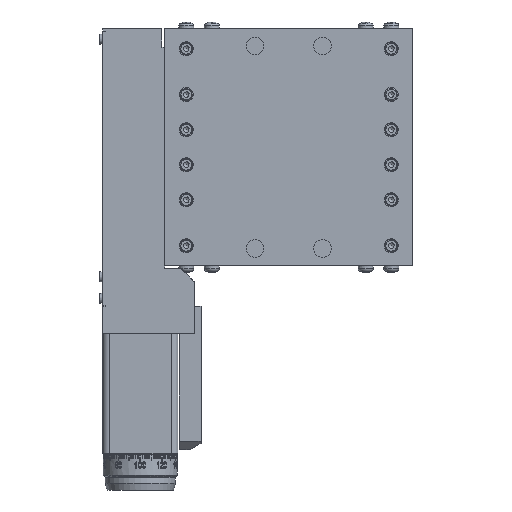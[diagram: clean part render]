
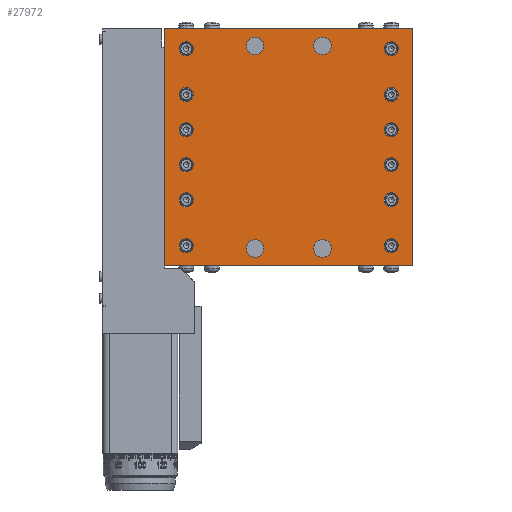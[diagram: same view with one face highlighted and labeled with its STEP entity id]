
A CAD part, front view. The second image highlights one B-rep face of the part: STEP entity #27972.
In plain terms, the highlighted planar face has unit normal (0, -1, 0).
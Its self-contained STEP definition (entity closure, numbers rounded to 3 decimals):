
#1511=LINE($,#40879,#3525);
#1557=LINE($,#40972,#3571);
#1559=LINE($,#40975,#3573);
#1560=LINE($,#40976,#3574);
#3525=VECTOR($,#33410,88.);
#3571=VECTOR($,#33482,88.);
#3573=VECTOR($,#33486,92.);
#3574=VECTOR($,#33487,92.);
#5642=PLANE($,#29923);
#6733=FACE_BOUND($,#9178,.T.);
#6734=FACE_BOUND($,#9179,.T.);
#6735=FACE_BOUND($,#9180,.T.);
#6736=FACE_BOUND($,#9181,.T.);
#6737=FACE_BOUND($,#9182,.T.);
#6738=FACE_BOUND($,#9183,.T.);
#6739=FACE_BOUND($,#9184,.T.);
#6740=FACE_BOUND($,#9185,.T.);
#6741=FACE_BOUND($,#9186,.T.);
#6742=FACE_BOUND($,#9187,.T.);
#6743=FACE_BOUND($,#9188,.T.);
#6744=FACE_BOUND($,#9189,.T.);
#6745=FACE_BOUND($,#9190,.T.);
#6746=FACE_BOUND($,#9191,.T.);
#6747=FACE_BOUND($,#9192,.T.);
#6748=FACE_BOUND($,#9193,.T.);
#7338=FACE_OUTER_BOUND($,#9177,.T.);
#9177=EDGE_LOOP($,(#19908,#19909,#19910,#19911));
#9178=EDGE_LOOP($,(#19912));
#9179=EDGE_LOOP($,(#19913));
#9180=EDGE_LOOP($,(#19914));
#9181=EDGE_LOOP($,(#19915));
#9182=EDGE_LOOP($,(#19916));
#9183=EDGE_LOOP($,(#19917));
#9184=EDGE_LOOP($,(#19918));
#9185=EDGE_LOOP($,(#19919));
#9186=EDGE_LOOP($,(#19920));
#9187=EDGE_LOOP($,(#19921));
#9188=EDGE_LOOP($,(#19922));
#9189=EDGE_LOOP($,(#19923));
#9190=EDGE_LOOP($,(#19924));
#9191=EDGE_LOOP($,(#19925));
#9192=EDGE_LOOP($,(#19926));
#9193=EDGE_LOOP($,(#19927));
#11047=CIRCLE($,#29858,2.6);
#11048=CIRCLE($,#29860,2.6);
#11049=CIRCLE($,#29862,2.6);
#11050=CIRCLE($,#29864,2.6);
#11051=CIRCLE($,#29866,2.6);
#11052=CIRCLE($,#29868,2.6);
#11053=CIRCLE($,#29870,2.6);
#11054=CIRCLE($,#29872,2.6);
#11055=CIRCLE($,#29874,2.6);
#11056=CIRCLE($,#29876,2.6);
#11057=CIRCLE($,#29878,2.6);
#11058=CIRCLE($,#29880,2.6);
#11062=CIRCLE($,#29887,3.25);
#11066=CIRCLE($,#29894,3.25);
#11070=CIRCLE($,#29901,3.25);
#11074=CIRCLE($,#29908,3.25);
#12207=VERTEX_POINT($,#40793);
#12208=VERTEX_POINT($,#40796);
#12209=VERTEX_POINT($,#40799);
#12210=VERTEX_POINT($,#40802);
#12211=VERTEX_POINT($,#40805);
#12212=VERTEX_POINT($,#40808);
#12213=VERTEX_POINT($,#40811);
#12214=VERTEX_POINT($,#40814);
#12215=VERTEX_POINT($,#40817);
#12216=VERTEX_POINT($,#40820);
#12217=VERTEX_POINT($,#40823);
#12218=VERTEX_POINT($,#40826);
#12222=VERTEX_POINT($,#40837);
#12226=VERTEX_POINT($,#40848);
#12230=VERTEX_POINT($,#40859);
#12234=VERTEX_POINT($,#40870);
#12237=VERTEX_POINT($,#40876);
#12238=VERTEX_POINT($,#40878);
#12271=VERTEX_POINT($,#40969);
#12272=VERTEX_POINT($,#40971);
#15279=EDGE_CURVE($,#12207,#12207,#11047,.T.);
#15280=EDGE_CURVE($,#12208,#12208,#11048,.T.);
#15281=EDGE_CURVE($,#12209,#12209,#11049,.T.);
#15282=EDGE_CURVE($,#12210,#12210,#11050,.T.);
#15283=EDGE_CURVE($,#12211,#12211,#11051,.T.);
#15284=EDGE_CURVE($,#12212,#12212,#11052,.T.);
#15285=EDGE_CURVE($,#12213,#12213,#11053,.T.);
#15286=EDGE_CURVE($,#12214,#12214,#11054,.T.);
#15287=EDGE_CURVE($,#12215,#12215,#11055,.T.);
#15288=EDGE_CURVE($,#12216,#12216,#11056,.T.);
#15289=EDGE_CURVE($,#12217,#12217,#11057,.T.);
#15290=EDGE_CURVE($,#12218,#12218,#11058,.T.);
#15294=EDGE_CURVE($,#12222,#12222,#11062,.T.);
#15298=EDGE_CURVE($,#12226,#12226,#11066,.T.);
#15302=EDGE_CURVE($,#12230,#12230,#11070,.T.);
#15306=EDGE_CURVE($,#12234,#12234,#11074,.T.);
#15309=EDGE_CURVE($,#12237,#12238,#1511,.T.);
#15355=EDGE_CURVE($,#12272,#12271,#1557,.T.);
#15357=EDGE_CURVE($,#12271,#12238,#1559,.T.);
#15358=EDGE_CURVE($,#12272,#12237,#1560,.T.);
#19908=ORIENTED_EDGE($,*,*,#15357,.T.);
#19909=ORIENTED_EDGE($,*,*,#15309,.F.);
#19910=ORIENTED_EDGE($,*,*,#15358,.F.);
#19911=ORIENTED_EDGE($,*,*,#15355,.T.);
#19912=ORIENTED_EDGE($,*,*,#15279,.T.);
#19913=ORIENTED_EDGE($,*,*,#15280,.T.);
#19914=ORIENTED_EDGE($,*,*,#15281,.T.);
#19915=ORIENTED_EDGE($,*,*,#15282,.T.);
#19916=ORIENTED_EDGE($,*,*,#15283,.T.);
#19917=ORIENTED_EDGE($,*,*,#15284,.T.);
#19918=ORIENTED_EDGE($,*,*,#15285,.T.);
#19919=ORIENTED_EDGE($,*,*,#15286,.T.);
#19920=ORIENTED_EDGE($,*,*,#15287,.T.);
#19921=ORIENTED_EDGE($,*,*,#15288,.T.);
#19922=ORIENTED_EDGE($,*,*,#15289,.T.);
#19923=ORIENTED_EDGE($,*,*,#15290,.T.);
#19924=ORIENTED_EDGE($,*,*,#15294,.T.);
#19925=ORIENTED_EDGE($,*,*,#15298,.T.);
#19926=ORIENTED_EDGE($,*,*,#15302,.T.);
#19927=ORIENTED_EDGE($,*,*,#15306,.T.);
#27972=ADVANCED_FACE($,(#7338,#6733,#6734,#6735,#6736,#6737,#6738,#6739,
#6740,#6741,#6742,#6743,#6744,#6745,#6746,#6747,#6748),#5642,.T.);
#29858=AXIS2_PLACEMENT_3D($,#40794,#33304,#33305);
#29860=AXIS2_PLACEMENT_3D($,#40797,#33308,#33309);
#29862=AXIS2_PLACEMENT_3D($,#40800,#33312,#33313);
#29864=AXIS2_PLACEMENT_3D($,#40803,#33316,#33317);
#29866=AXIS2_PLACEMENT_3D($,#40806,#33320,#33321);
#29868=AXIS2_PLACEMENT_3D($,#40809,#33324,#33325);
#29870=AXIS2_PLACEMENT_3D($,#40812,#33328,#33329);
#29872=AXIS2_PLACEMENT_3D($,#40815,#33332,#33333);
#29874=AXIS2_PLACEMENT_3D($,#40818,#33336,#33337);
#29876=AXIS2_PLACEMENT_3D($,#40821,#33340,#33341);
#29878=AXIS2_PLACEMENT_3D($,#40824,#33344,#33345);
#29880=AXIS2_PLACEMENT_3D($,#40827,#33348,#33349);
#29887=AXIS2_PLACEMENT_3D($,#40838,#33362,#33363);
#29894=AXIS2_PLACEMENT_3D($,#40849,#33376,#33377);
#29901=AXIS2_PLACEMENT_3D($,#40860,#33390,#33391);
#29908=AXIS2_PLACEMENT_3D($,#40871,#33404,#33405);
#29923=AXIS2_PLACEMENT_3D($,#40974,#33484,#33485);
#33304=DIRECTION('center_axis',(0.,1.,0.));
#33305=DIRECTION('ref_axis',(1.,0.,0.));
#33308=DIRECTION('center_axis',(0.,1.,0.));
#33309=DIRECTION('ref_axis',(1.,0.,0.));
#33312=DIRECTION('center_axis',(0.,1.,0.));
#33313=DIRECTION('ref_axis',(1.,0.,0.));
#33316=DIRECTION('center_axis',(0.,1.,0.));
#33317=DIRECTION('ref_axis',(1.,0.,0.));
#33320=DIRECTION('center_axis',(0.,1.,0.));
#33321=DIRECTION('ref_axis',(1.,0.,0.));
#33324=DIRECTION('center_axis',(0.,1.,0.));
#33325=DIRECTION('ref_axis',(1.,0.,0.));
#33328=DIRECTION('center_axis',(0.,1.,0.));
#33329=DIRECTION('ref_axis',(1.,0.,0.));
#33332=DIRECTION('center_axis',(0.,1.,0.));
#33333=DIRECTION('ref_axis',(1.,0.,0.));
#33336=DIRECTION('center_axis',(0.,1.,0.));
#33337=DIRECTION('ref_axis',(1.,0.,0.));
#33340=DIRECTION('center_axis',(0.,1.,0.));
#33341=DIRECTION('ref_axis',(1.,0.,0.));
#33344=DIRECTION('center_axis',(0.,1.,0.));
#33345=DIRECTION('ref_axis',(1.,0.,0.));
#33348=DIRECTION('center_axis',(0.,1.,0.));
#33349=DIRECTION('ref_axis',(1.,0.,0.));
#33362=DIRECTION('center_axis',(0.,1.,0.));
#33363=DIRECTION('ref_axis',(1.,0.,0.));
#33376=DIRECTION('center_axis',(0.,1.,0.));
#33377=DIRECTION('ref_axis',(1.,0.,0.));
#33390=DIRECTION('center_axis',(0.,1.,0.));
#33391=DIRECTION('ref_axis',(1.,0.,0.));
#33404=DIRECTION('center_axis',(0.,1.,0.));
#33405=DIRECTION('ref_axis',(1.,0.,0.));
#33410=DIRECTION($,(0.,0.,1.));
#33482=DIRECTION($,(0.,0.,1.));
#33484=DIRECTION('center_axis',(0.,-1.,0.));
#33485=DIRECTION('ref_axis',(0.,0.,-1.));
#33486=DIRECTION($,(-1.,0.,0.));
#33487=DIRECTION($,(-1.,0.,0.));
#40793=CARTESIAN_POINT('',(6.538,-12.459,94.983));
#40794=CARTESIAN_POINT('Origin',(3.938,-12.459,94.983));
#40796=CARTESIAN_POINT('',(-69.462,-12.459,77.983));
#40797=CARTESIAN_POINT('Origin',(-72.062,-12.459,77.983));
#40799=CARTESIAN_POINT('',(6.538,-12.459,64.983));
#40800=CARTESIAN_POINT('Origin',(3.938,-12.459,64.983));
#40802=CARTESIAN_POINT('',(-69.462,-12.459,51.983));
#40803=CARTESIAN_POINT('Origin',(-72.062,-12.459,51.983));
#40805=CARTESIAN_POINT('',(6.538,-12.459,38.983));
#40806=CARTESIAN_POINT('Origin',(3.938,-12.459,38.983));
#40808=CARTESIAN_POINT('',(-69.462,-12.459,21.983));
#40809=CARTESIAN_POINT('Origin',(-72.062,-12.459,21.983));
#40811=CARTESIAN_POINT('',(6.538,-12.459,21.983));
#40812=CARTESIAN_POINT('Origin',(3.938,-12.459,21.983));
#40814=CARTESIAN_POINT('',(-69.462,-12.459,38.983));
#40815=CARTESIAN_POINT('Origin',(-72.062,-12.459,38.983));
#40817=CARTESIAN_POINT('',(6.538,-12.459,51.983));
#40818=CARTESIAN_POINT('Origin',(3.938,-12.459,51.983));
#40820=CARTESIAN_POINT('',(-69.462,-12.459,64.983));
#40821=CARTESIAN_POINT('Origin',(-72.062,-12.459,64.983));
#40823=CARTESIAN_POINT('',(6.538,-12.459,77.983));
#40824=CARTESIAN_POINT('Origin',(3.938,-12.459,77.983));
#40826=CARTESIAN_POINT('',(-69.462,-12.459,94.983));
#40827=CARTESIAN_POINT('Origin',(-72.062,-12.459,94.983));
#40837=CARTESIAN_POINT('',(-24.812,-12.459,95.983));
#40838=CARTESIAN_POINT('Origin',(-21.562,-12.459,95.983));
#40848=CARTESIAN_POINT('',(-49.812,-12.459,20.983));
#40849=CARTESIAN_POINT('Origin',(-46.562,-12.459,20.983));
#40859=CARTESIAN_POINT('',(-24.812,-12.459,20.983));
#40860=CARTESIAN_POINT('Origin',(-21.562,-12.459,20.983));
#40870=CARTESIAN_POINT('',(-49.812,-12.459,95.983));
#40871=CARTESIAN_POINT('Origin',(-46.562,-12.459,95.983));
#40876=CARTESIAN_POINT('',(-80.062,-12.459,14.483));
#40878=CARTESIAN_POINT('',(-80.062,-12.459,102.483));
#40879=CARTESIAN_POINT($,(-80.062,-12.459,14.483));
#40969=CARTESIAN_POINT('',(11.938,-12.459,102.483));
#40971=CARTESIAN_POINT('',(11.938,-12.459,14.483));
#40972=CARTESIAN_POINT($,(11.938,-12.459,14.483));
#40974=CARTESIAN_POINT('Origin',(11.938,-12.459,14.483));
#40975=CARTESIAN_POINT($,(11.938,-12.459,102.483));
#40976=CARTESIAN_POINT($,(11.938,-12.459,14.483));
